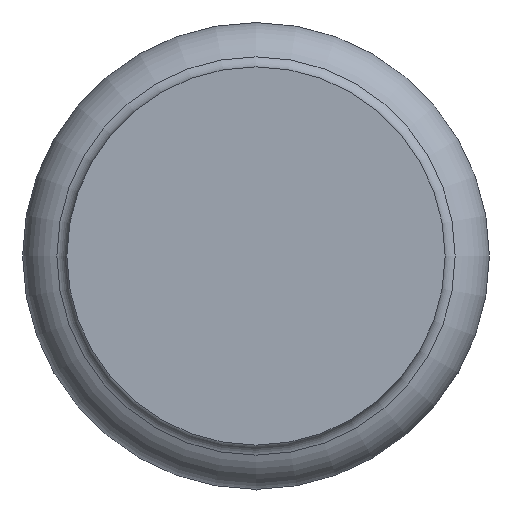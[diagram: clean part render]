
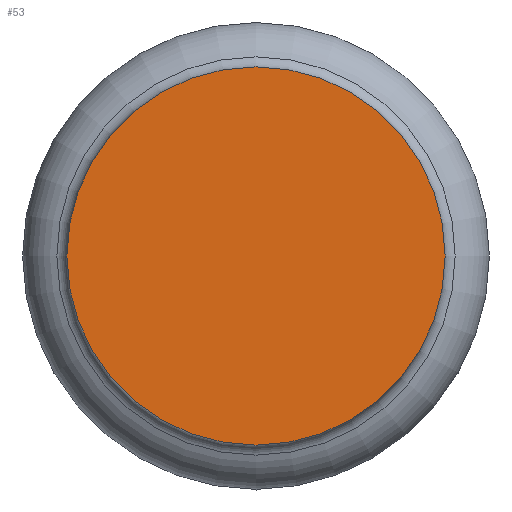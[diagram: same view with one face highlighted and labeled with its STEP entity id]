
A CAD part, front view. The second image highlights one B-rep face of the part: STEP entity #53.
In plain terms, the highlighted planar face has unit normal (0, -1, 0).
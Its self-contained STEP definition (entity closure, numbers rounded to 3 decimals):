
#53=ADVANCED_FACE('',(#72),#74,.F.);
#72=FACE_BOUND('',#73,.T.);
#73=EDGE_LOOP('',(#227));
#74=PLANE('',#75);
#75=AXIS2_PLACEMENT_3D('',#76,#77,#78);
#76=CARTESIAN_POINT('',(0.,0.,0.));
#77=DIRECTION('',(0.,1.,0.));
#78=DIRECTION('',(-1.,0.,0.));
#227=ORIENTED_EDGE('',*,*,#287,.F.);
#287=EDGE_CURVE('',#317,#317,#318,.T.);
#317=VERTEX_POINT('',#371);
#318=CIRCLE('',#372,12.6);
#371=CARTESIAN_POINT('',(0.,0.,12.6));
#372=AXIS2_PLACEMENT_3D('',#373,#374,#375);
#373=CARTESIAN_POINT('',(0.,0.,0.));
#374=DIRECTION('',(0.,1.,0.));
#375=DIRECTION('',(0.,0.,1.));
